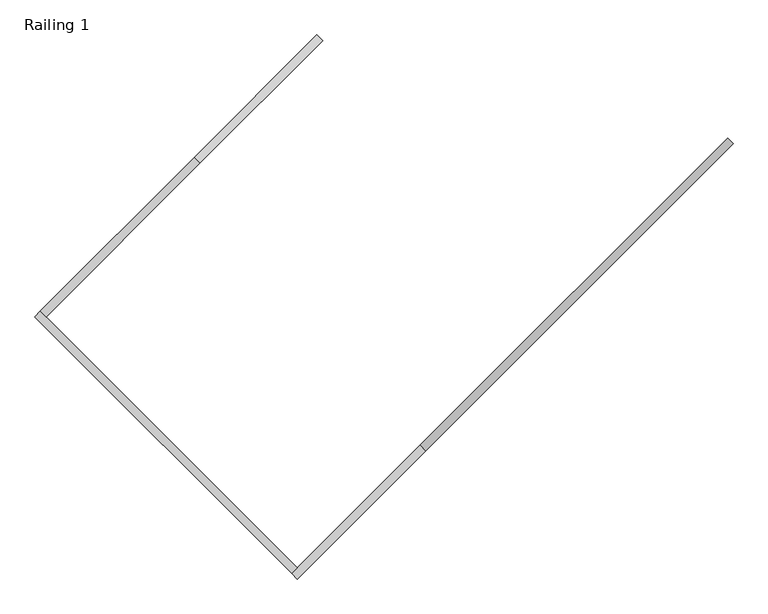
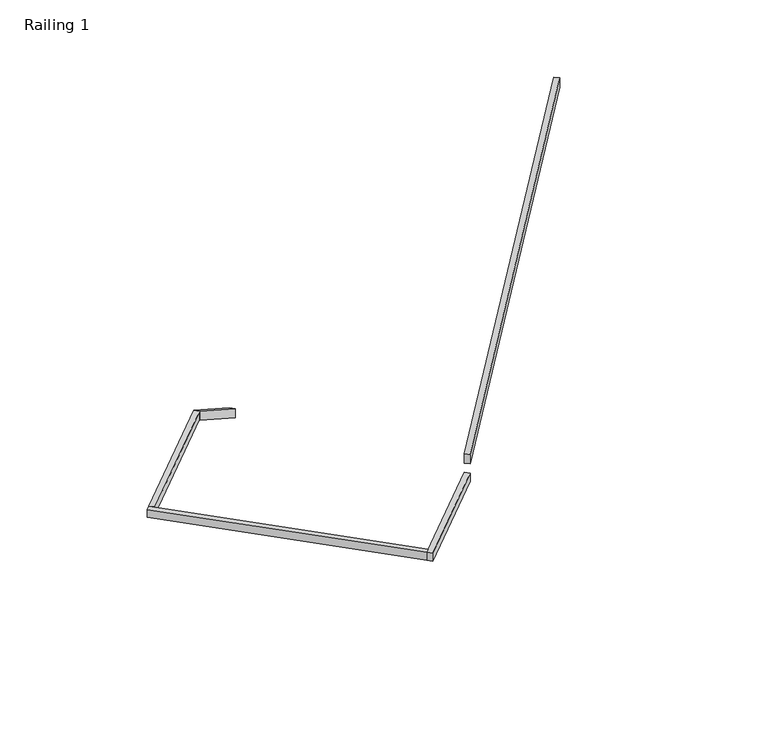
"""IFC4 building model written with IfcOpenShell, lengths in millimetres: railing geometry, Railing 1."""

from ifc_helpers import new_model, si_unit, frame, origin, place, context, project, spatial, polyline, outline, extrude, source, transform, mapped, element, save


def railing_1_783200aa(model_context):
    return source(origin(), model_context, "Body", "SweptSolid", [
        extrude(outline(polyline([(-49.7897727, -76.2), (0.0, 0.0), (1335.0261505, 0.0), (1285.2363777, -76.2), (-49.7897727, -76.2)])), frame((-55678.5174145, 10503.1983476, -2103.4375), z_axis=(-0.7071067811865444, 0.7071067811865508, 0.0), x_axis=(-0.5919453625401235, -0.5919453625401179, 0.5469930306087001)), (0.0, 0.0, 1.0), 50.8),
        extrude(outline(polyline([(-56504.7009777, 9748.8568334), (-56468.7799532, 9712.935809), (-57456.6081265, 8725.1076356), (-57492.529151, 8761.0286601), (-56504.7009777, 9748.8568334)])), frame((0.0, 0.0, -1449.3875), z_axis=(0.0, 0.0, 1.0), x_axis=(1.0, 0.0, 0.0)), (0.0, 0.0, 1.0), 76.2),
        extrude(outline(polyline([(-57528.4501755, 8725.1076356), (-57492.529151, 8761.0286601), (-55840.4519965, 7108.9515056), (-55876.373021, 7073.0304811), (-57528.4501755, 8725.1076356)])), frame((0.0, 0.0, -1449.3875), z_axis=(0.0, 0.0, 1.0), x_axis=(1.0, 0.0, 0.0)), (0.0, 0.0, 1.0), 76.2),
        extrude(outline(polyline([(-55840.4519965, 7037.1094566), (-55876.373021, 7073.0304811), (-55050.1894578, 7899.2140443), (-55014.2684334, 7863.2930198), (-55840.4519965, 7037.1094566)])), frame((0.0, 0.0, -1449.3875), z_axis=(0.0, 0.0, 1.0), x_axis=(1.0, 0.0, 0.0)), (0.0, 0.0, 1.0), 76.2),
        extrude(outline(polyline([(49.7897727, -76.2), (0.0, 0.0), (3337.5653762, 0.0), (3387.355149, -76.2), (49.7897727, -76.2)])), frame((-55014.2684334, 7863.2930198, -1281.6495103), z_axis=(-0.7071067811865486, 0.7071067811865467, 0.0), x_axis=(0.5919453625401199, 0.5919453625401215, 0.5469930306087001)), (0.0, 0.0, 1.0), 50.8),
    ])


if __name__ == "__main__":
    model = new_model("IFC4")
    model_context = context("Model", 3, world=origin())
    ifc_project = project(units=[si_unit("LENGTHUNIT", "METRE", prefix="MILLI")], contexts=[model_context])
    site = spatial("IfcSite", under=ifc_project)
    building = spatial("IfcBuilding", under=site)
    placement = place(None, origin())
    railing_1_shape = railing_1_783200aa(model_context)
    element("IfcRailing", 1, ObjectType="Railing 1", at=placement, inside=building, context=model_context, shape_type="MappedRepresentation", body=[
        mapped(railing_1_shape, transform((0.0, 0.0, 0.0), x_axis=(1.0, 0.0, 0.0), y_axis=(0.0, 1.0, 0.0), z_axis=(0.0, 0.0, 1.0))),
    ])
    save(model, "model.ifc")
